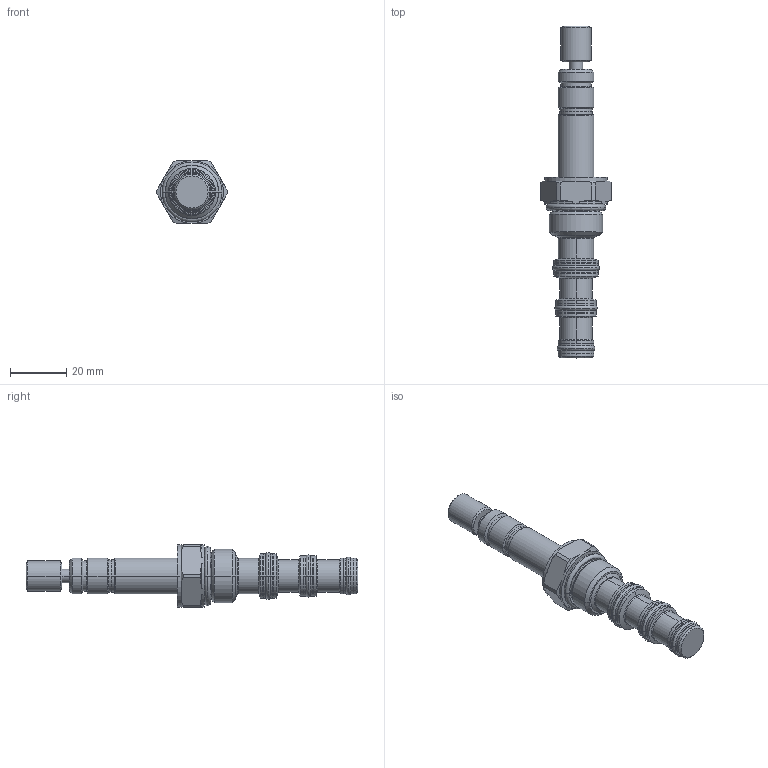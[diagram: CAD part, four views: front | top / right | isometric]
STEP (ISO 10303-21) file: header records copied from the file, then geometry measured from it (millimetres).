
FILE_DESCRIPTION((''),'2;1');
FILE_NAME('5007000_SW0003','2009-02-24T',('JCS'),(''),'PRO/ENGINEER BY PARAMETRIC TECHNOLOGY CORPORATION, 2008010','PRO/ENGINEER BY PARAMETRIC TECHNOLOGY CORPORATION, 2008010','');
FILE_SCHEMA(('CONFIG_CONTROL_DESIGN'));
Length unit declared in the file: inch
Products named in the file (1): 5007000_SW0003
Bounding box: 24.94 x 117.63 x 22.23 mm (x, y, z)
Volume: 18622.9 mm3; surface area: 8699 mm2
Topology: 5 solids, 5 shells, 255 faces, 565 edges, 334 vertices
Faces by surface type: cylinder 91, cone 62, torus 36, plane 34, revolution 32
Entity records: 7710 total; most frequent: CARTESIAN_POINT 1880, DIRECTION 1320, ORIENTED_EDGE 1130, EDGE_CURVE 565, AXIS2_PLACEMENT_3D 560, CIRCLE 337, VERTEX_POINT 334, EDGE_LOOP 279
